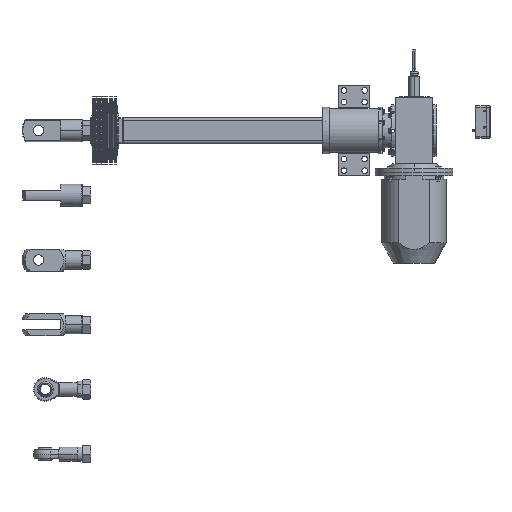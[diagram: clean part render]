
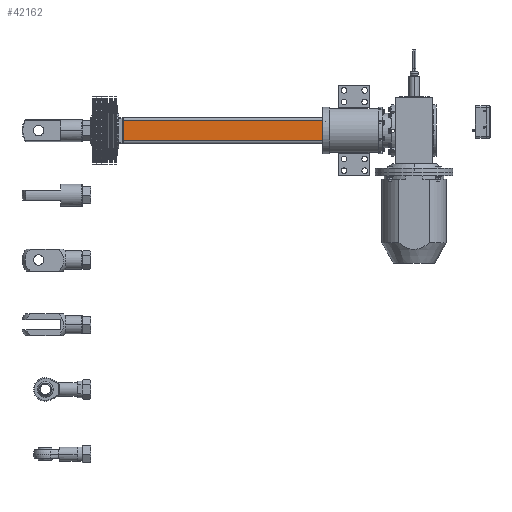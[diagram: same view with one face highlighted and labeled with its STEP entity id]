
A CAD part, front view. The second image highlights one B-rep face of the part: STEP entity #42162.
In plain terms, the highlighted planar face has unit normal (0, -1, 0).
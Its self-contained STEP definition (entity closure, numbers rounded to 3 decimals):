
#7499 = ORIENTED_EDGE ( 'NONE', *, *, #35830, .T. ) ;
#7500 = ORIENTED_EDGE ( 'NONE', *, *, #35831, .T. ) ;
#7501 = ORIENTED_EDGE ( 'NONE', *, *, #35832, .F. ) ;
#7502 = ORIENTED_EDGE ( 'NONE', *, *, #35796, .F. ) ;
#7982 = AXIS2_PLACEMENT_3D ( 'NONE', #46856, #46864, #46865 ) ;
#16798 = VERTEX_POINT ( 'NONE', #30935 ) ;
#17639 = VERTEX_POINT ( 'NONE', #31282 ) ;
#30935 = CARTESIAN_POINT ( 'NONE',  ( 780., -50., 40. ) ) ;
#31282 = CARTESIAN_POINT ( 'NONE',  ( 780., -50., -40. ) ) ;
#33514 = LINE ( 'NONE', #48453, #33517 ) ;
#33517 = VECTOR ( 'NONE', #48454, 1000. ) ;
#33564 = LINE ( 'NONE', #48537, #33570 ) ;
#33566 = LINE ( 'NONE', #48535, #33568 ) ;
#33568 = VECTOR ( 'NONE', #48530, 1000. ) ;
#33569 = LINE ( 'NONE', #48543, #33572 ) ;
#33570 = VECTOR ( 'NONE', #48542, 1000. ) ;
#33572 = VECTOR ( 'NONE', #48545, 1000. ) ;
#35796 = EDGE_CURVE ( 'NONE', #16798, #17639, #33514, .T. ) ;
#35830 = EDGE_CURVE ( 'NONE', #16798, #49142, #33566, .T. ) ;
#35831 = EDGE_CURVE ( 'NONE', #49142, #49141, #33564, .T. ) ;
#35832 = EDGE_CURVE ( 'NONE', #17639, #49141, #33569, .T. ) ;
#42162 = ADVANCED_FACE ( 'NONE', ( #45680 ), #46861, .F. ) ;
#45680 = FACE_OUTER_BOUND ( 'NONE', #49279, .T. ) ;
#46856 = CARTESIAN_POINT ( 'NONE',  ( 780., -50., 40. ) ) ;
#46861 = PLANE ( 'NONE',  #7982 ) ;
#46864 = DIRECTION ( 'NONE',  ( 0., 1., 0. ) ) ;
#46865 = DIRECTION ( 'NONE',  ( 0., 0., 1. ) ) ;
#48453 = CARTESIAN_POINT ( 'NONE',  ( 780., -50., 40. ) ) ;
#48454 = DIRECTION ( 'NONE',  ( 0., 0., -1. ) ) ;
#48530 = DIRECTION ( 'NONE',  ( -1., 0., 0. ) ) ;
#48535 = CARTESIAN_POINT ( 'NONE',  ( 780., -50., 40. ) ) ;
#48537 = CARTESIAN_POINT ( 'NONE',  ( 2., -50., 40. ) ) ;
#48542 = DIRECTION ( 'NONE',  ( 0., 0., -1. ) ) ;
#48543 = CARTESIAN_POINT ( 'NONE',  ( 780., -50., -40. ) ) ;
#48545 = DIRECTION ( 'NONE',  ( -1., 0., 0. ) ) ;
#49141 = VERTEX_POINT ( 'NONE', #54803 ) ;
#49142 = VERTEX_POINT ( 'NONE', #54804 ) ;
#49279 = EDGE_LOOP ( 'NONE', ( #7499, #7500, #7501, #7502 ) ) ;
#54803 = CARTESIAN_POINT ( 'NONE',  ( 2., -50., -40. ) ) ;
#54804 = CARTESIAN_POINT ( 'NONE',  ( 2., -50., 40. ) ) ;
